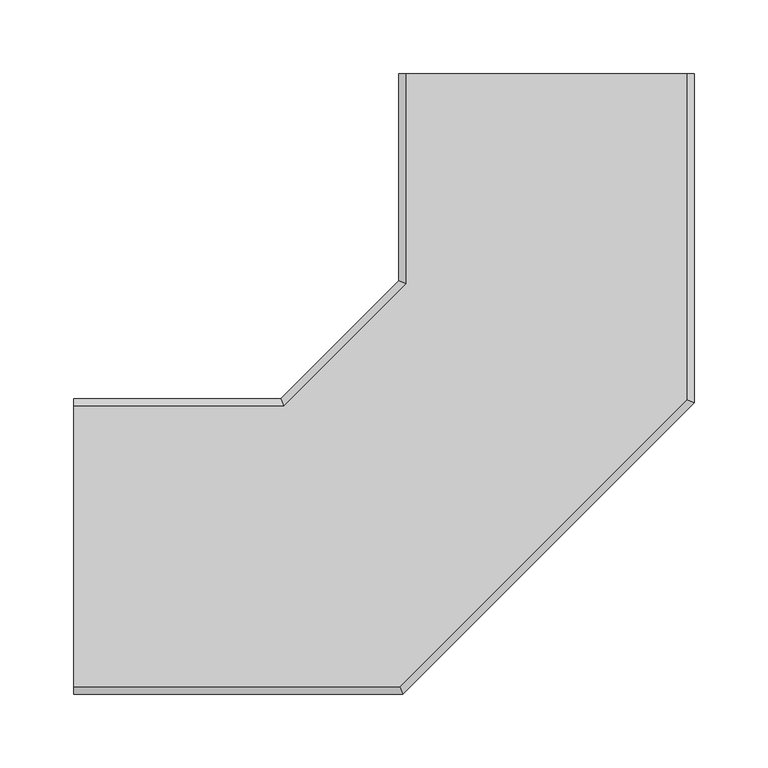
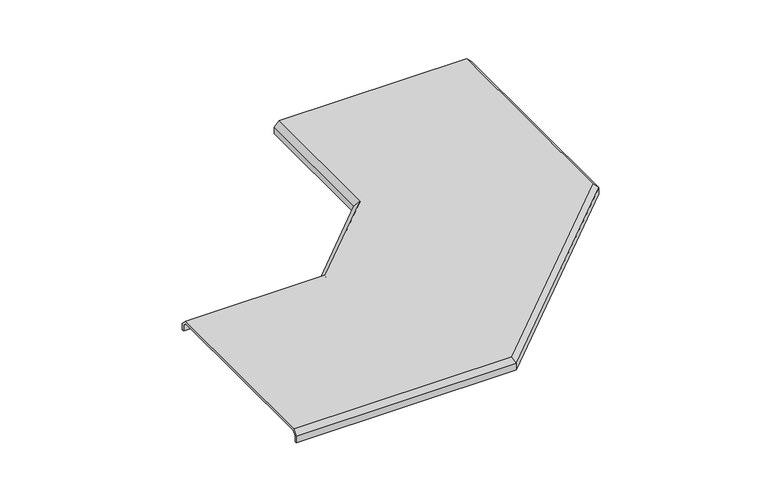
"""IFC4 building model written with IfcOpenShell, lengths in millimetres: proxy geometry, Cable_Tray_Cover_TCPBPE_Basorplast : Basorplast TCPBPE 200."""

import ifcopenshell
import ifcopenshell.guid

model = None  # the IFC model being written
_history = None  # IfcOwnerHistory: only IFC2X3 demands one
_inside = {}  # id of a spatial element -> (the spatial element, [elements in it])
_under = {}  # id of a project, library or spatial element -> (it, [spatial elements below it])
_declared = {}  # id of a project -> (the project, [libraries it declares])
_typed = {}  # id of a type object -> (the type object, [elements of that type])
_made_of = {}  # id of a material, layer set ... -> (it, [elements and type objects made of it])


def new_model(schema):
    """Start an empty IFC model of exactly this schema.

    Asked for "IFC4X3", IfcOpenShell would pick the latest addendum, in which some entities
    have other attributes; the version numbers below select the first issue.
    IFC2X3 requires an IfcOwnerHistory on every rooted entity: one is made here for all.
    """
    global model, _history
    if schema == "IFC4X3":
        model = ifcopenshell.file(schema_version=(4, 3, 0, 0))
    else:
        model = ifcopenshell.file(schema=schema)
    _inside.clear()
    _under.clear()
    _declared.clear()
    _typed.clear()
    _made_of.clear()
    _history = None
    if model.schema == "IFC2X3":
        org = make("IfcOrganization", Name="unknown")
        user = make(
            "IfcPersonAndOrganization",
            ThePerson=make("IfcPerson", FamilyName="unknown"),
            TheOrganization=org,
        )
        app = make(
            "IfcApplication",
            ApplicationDeveloper=org,
            Version="unknown",
            ApplicationFullName="unknown",
            ApplicationIdentifier="unknown",
        )
        _history = make(
            "IfcOwnerHistory",
            OwningUser=user,
            OwningApplication=app,
            ChangeAction="ADDED",
            CreationDate=0,
        )
    return model


def make(cls, **values):
    """One entity of the class cls with the attributes given. An attribute that is None is left unset."""
    return model.create_entity(
        cls, **{name: value for name, value in values.items() if value is not None}
    )


def rooted(cls, **values):
    """An entity with a GlobalId (a new one), such as an element, a storey or a relation."""
    return make(cls, GlobalId=ifcopenshell.guid.new(), OwnerHistory=_history, **values)


def si_unit(unit_type, name, prefix=None):
    """IfcSIUnit, for example si_unit("LENGTHUNIT", "METRE", prefix="MILLI")."""
    return make("IfcSIUnit", UnitType=unit_type, Prefix=prefix, Name=name)


def assignment(units):
    """IfcUnitAssignment: the units of a project."""
    return None if units is None else make("IfcUnitAssignment", Units=units)


def point(xyz):
    """IfcCartesianPoint."""
    return None if xyz is None else make("IfcCartesianPoint", Coordinates=xyz)


def direction(xyz):
    """IfcDirection."""
    return None if xyz is None else make("IfcDirection", DirectionRatios=xyz)


def frame(location, z_axis=None, x_axis=None):
    """IfcAxis2Placement3D, a coordinate frame: its origin and axes. An axis left out is left unset."""
    return make(
        "IfcAxis2Placement3D",
        Location=point(location),
        Axis=direction(z_axis),
        RefDirection=direction(x_axis),
    )


def origin():
    """The frame at (0, 0, 0) with its axes left unset."""
    return frame((0.0, 0.0, 0.0))


def place(relative_to, where):
    """IfcLocalPlacement: puts the frame where relative to a parent placement (None: the world)."""
    return make(
        "IfcLocalPlacement", PlacementRelTo=relative_to, RelativePlacement=where
    )


def context(
    kind, dimensions, precision=None, world=None, true_north=None, identifier=None
):
    """IfcGeometricRepresentationContext, for example the 3D "Model" context."""
    return make(
        "IfcGeometricRepresentationContext",
        ContextIdentifier=identifier,
        ContextType=kind,
        CoordinateSpaceDimension=dimensions,
        Precision=precision,
        WorldCoordinateSystem=world,
        TrueNorth=true_north,
    )


def project(units=None, contexts=None):
    """IfcProject with its units and contexts."""
    return rooted(
        "IfcProject",
        Name="project",
        RepresentationContexts=contexts,
        UnitsInContext=assignment(units),
    )


def spatial(cls, under=None, at=None, **own):
    """A site, building, storey or space (cls), placed at a placement, below another one or the project."""
    s = rooted(cls, ObjectPlacement=at, **own)
    if under is not None:
        _under.setdefault(under.id(), (under, []))[1].append(s)
    return s


def faces_of(points, faces, orient=None, outer=None):
    """IfcFace entities. A face is a list of loops; a loop is a list of indices into points, from 0.

    orient and outer hold one flag for each loop. By default every Orientation is true, the
    first loop of a face is its IfcFaceOuterBound and the others are IfcFaceBound.
    """
    made = []
    for i, loops in enumerate(faces):
        bounds = []
        for j, loop in enumerate(loops):
            is_outer = j == 0 if outer is None else outer[i][j]
            bounds.append(
                make(
                    "IfcFaceOuterBound" if is_outer else "IfcFaceBound",
                    Bound=make("IfcPolyLoop", Polygon=[points[k] for k in loop]),
                    Orientation=True if orient is None else orient[i][j],
                )
            )
        made.append(make("IfcFace", Bounds=bounds))
    return made


def faceted_brep(points, faces, orient=None, outer=None, voids=None):
    """IfcFacetedBrep: a solid bounded by flat faces; with voids (closed shells), ...WithVoids."""
    shared = [point(p) for p in points]
    hull = make("IfcClosedShell", CfsFaces=faces_of(shared, faces, orient, outer))
    if voids is None:
        return make("IfcFacetedBrep", Outer=hull)
    return make(
        "IfcFacetedBrepWithVoids",
        Outer=hull,
        Voids=[
            make(cls, CfsFaces=faces_of(shared, fs, o, b)) for cls, fs, o, b in voids
        ],
    )


def shape(context_of_items, identifier, shape_type, items):
    """IfcShapeRepresentation: the items that make up one representation, for example the "Body"."""
    return make(
        "IfcShapeRepresentation",
        ContextOfItems=context_of_items,
        RepresentationIdentifier=identifier,
        RepresentationType=shape_type,
        Items=items,
    )


def source(mapping_origin, context_of_items, identifier, shape_type, items):
    """IfcRepresentationMap: a shape defined once, which mapped items show again and again."""
    return make(
        "IfcRepresentationMap",
        MappingOrigin=mapping_origin,
        MappedRepresentation=shape(context_of_items, identifier, shape_type, items),
    )


def transform(
    local_origin,
    x_axis=None,
    y_axis=None,
    z_axis=None,
    scale=None,
    scale2=None,
    scale3=None,
    uniform=True,
):
    """IfcCartesianTransformationOperator3D, or its non-uniform kind. x_axis, y_axis, z_axis: its Axis1, 2, 3."""
    if uniform:
        return make(
            "IfcCartesianTransformationOperator3D",
            Axis1=direction(x_axis),
            Axis2=direction(y_axis),
            LocalOrigin=point(local_origin),
            Scale=scale,
            Axis3=direction(z_axis),
        )
    return make(
        "IfcCartesianTransformationOperator3DnonUniform",
        Axis1=direction(x_axis),
        Axis2=direction(y_axis),
        LocalOrigin=point(local_origin),
        Scale=scale,
        Axis3=direction(z_axis),
        Scale2=scale2,
        Scale3=scale3,
    )


def mapped(mapping_source, mapping_target):
    """IfcMappedItem: shows the shape of a source again, moved by a transform."""
    return make(
        "IfcMappedItem", MappingSource=mapping_source, MappingTarget=mapping_target
    )


def made_of(thing, what):
    """Note that an element or type object is made of a material, layer set ...; save() writes the relation."""
    if what is not None:
        _made_of.setdefault(what.id(), (what, []))[1].append(thing)
    return thing


def element(
    cls,
    number,
    at=None,
    inside=None,
    cuts=None,
    type_object=None,
    material=None,
    context=None,
    identifier="Body",
    shape_type=None,
    held_by="IfcProductDefinitionShape",
    body=None,
    shapes=None,
    **own,
):
    """One element of the class cls, such as IfcWall. Its Tag is "e" and its number.

    at: its placement. inside: the storey or other place that contains it. cuts: it is an
    opening in that element (IfcRelVoidsElement). A single representation is given by context,
    identifier, shape_type and body (its items); several are given by shapes. held_by: the class
    of the entity that holds the representations. save() writes the other relations.
    """
    e = rooted(cls, Tag="e%d" % number, ObjectPlacement=at, **own)
    if body is not None:
        shapes = [shape(context, identifier, shape_type, body)]
    if shapes is not None:
        e.Representation = make(held_by, Representations=shapes)
    if inside is not None:
        _inside.setdefault(inside.id(), (inside, []))[1].append(e)
    if cuts is not None:
        rooted(
            "IfcRelVoidsElement", RelatingBuildingElement=cuts, RelatedOpeningElement=e
        )
    if type_object is not None:
        _typed.setdefault(type_object.id(), (type_object, []))[1].append(e)
    return made_of(e, material)


def aggregate(whole, parts):
    """IfcRelAggregates: a whole, such as a stair, and the parts it consists of."""
    return rooted("IfcRelAggregates", RelatingObject=whole, RelatedObjects=parts)


def save(model, path):
    """Write the relations noted so far, then the file.

    IfcRelAggregates (storeys below a building ...), IfcRelContainedInSpatialStructure (elements
    in a storey), IfcRelDefinesByType, IfcRelAssociatesMaterial and IfcRelDeclares: one each for
    every whole, place, type object, material and project.
    """
    for whole, parts in _under.values():
        aggregate(whole, parts)
    for where, things in _inside.values():
        rooted(
            "IfcRelContainedInSpatialStructure",
            RelatedElements=things,
            RelatingStructure=where,
        )
    for kind, things in _typed.values():
        rooted("IfcRelDefinesByType", RelatedObjects=things, RelatingType=kind)
    for what, things in _made_of.values():
        rooted("IfcRelAssociatesMaterial", RelatedObjects=things, RelatingMaterial=what)
    for by, libraries in _declared.values():
        rooted("IfcRelDeclares", RelatingContext=by, RelatedDefinitions=libraries)
    model.write(path)


def generic_models_e9cec0f6(model_context):
    return source(origin(), model_context, "Body", "Brep", [
        faceted_brep([(0.0, 99.0, -10.0), (0.0, 99.0, -3.8284271), (0.0, 95.1715729, 0.0), (0.0, -93.1715729, 0.0), (0.0, -97.0, -3.8284271), (0.0, -97.0, -10.0), (0.0, -99.0, -10.0), (0.0, -99.0, -3.0), (0.0, -94.0, 2.0), (0.0, 96.0, 2.0), (0.0, 101.0, -3.0), (0.0, 101.0, -10.0), (140.8284271, 99.0, -10.0), (140.8284271, 99.0, -3.8284271), (142.4142136, 95.1715729, 0.0), (225.8284271, 178.5857864, 0.0), (225.8284271, 321.0, 0.0), (414.1715729, 321.0, 0.0), (414.1715729, 100.5715011, 0.0), (220.4284989, -93.1715729, 0.0), (220.7716447, -94.0, 2.0), (415.0, 100.2283553, 2.0), (415.0, 321.0, 2.0), (225.0, 321.0, 2.0), (225.0, 178.9289322, 2.0), (142.0710678, 96.0, 2.0), (140.0, 101.0, -3.0), (140.0, 101.0, -10.0), (220.0, 181.0, -10.0), (220.0, 321.0, -10.0), (222.0, 321.0, -10.0), (222.0, 180.1715729, -10.0), (222.0, 180.1715729, -3.8284271), (220.0, 181.0, -3.0), (220.0, 321.0, -3.0), (420.0, 321.0, -3.0), (420.0, 321.0, -10.0), (418.0, 321.0, -10.0), (418.0, 321.0, -3.8284271), (222.0, 321.0, -3.8284271), (222.0142853, -97.0, -3.8284271), (222.0142853, -97.0, -10.0), (418.0, 98.9857147, -10.0), (420.0, 98.1572875, -10.0), (222.8427125, -99.0, -10.0), (222.8427125, -99.0, -3.0), (418.0, 98.9857147, -3.8284271), (420.0, 98.1572875, -3.0)], [[[0, 1, 2, 3, 4, 5, 6, 7, 8, 9, 10, 11]], [[1, 0, 12, 13]], [[2, 1, 13, 14]], [[3, 2, 14, 15, 16, 17, 18, 19]], [[9, 8, 20, 21, 22, 23, 24, 25]], [[10, 9, 25, 26]], [[11, 10, 26, 27]], [[0, 11, 27, 28, 29, 30, 31, 12]], [[13, 12, 31, 32]], [[14, 13, 32, 15]], [[26, 25, 24, 33]], [[27, 26, 33, 28]], [[30, 29, 34, 23, 22, 35, 36, 37, 38, 17, 16, 39]], [[32, 31, 30, 39]], [[15, 32, 39, 16]], [[33, 24, 23, 34]], [[28, 33, 34, 29]], [[4, 3, 19, 40]], [[5, 4, 40, 41]], [[6, 5, 41, 42, 37, 36, 43, 44]], [[7, 6, 44, 45]], [[8, 7, 45, 20]], [[40, 19, 18, 46]], [[41, 40, 46, 42]], [[45, 44, 43, 47]], [[20, 45, 47, 21]], [[46, 18, 17, 38]], [[42, 46, 38, 37]], [[47, 43, 36, 35]], [[21, 47, 35, 22]]]),
    ])


if __name__ == "__main__":
    model = new_model("IFC4")
    model_context = context("Model", 3, world=origin())
    ifc_project = project(units=[si_unit("LENGTHUNIT", "METRE", prefix="MILLI")], contexts=[model_context])
    site = spatial("IfcSite", under=ifc_project)
    building = spatial("IfcBuilding", under=site)
    placement = place(None, origin())
    generic_models_shape = generic_models_e9cec0f6(model_context)
    element("IfcBuildingElementProxy", 1, Name="Cable_Tray_Cover_TCPBPE_Basorplast : Basorplast TCPBPE 200", ObjectType="Cable_Tray_Cover_TCPBPE_Basorplast : Basorplast TCPBPE 200", at=placement, inside=building, context=model_context, shape_type="MappedRepresentation", body=[
        mapped(generic_models_shape, transform((0.0, 0.0, 0.0), x_axis=(1.0, 0.0, 0.0), y_axis=(0.0, 1.0, 0.0), z_axis=(0.0, 0.0, 1.0))),
    ])
    save(model, "model.ifc")
